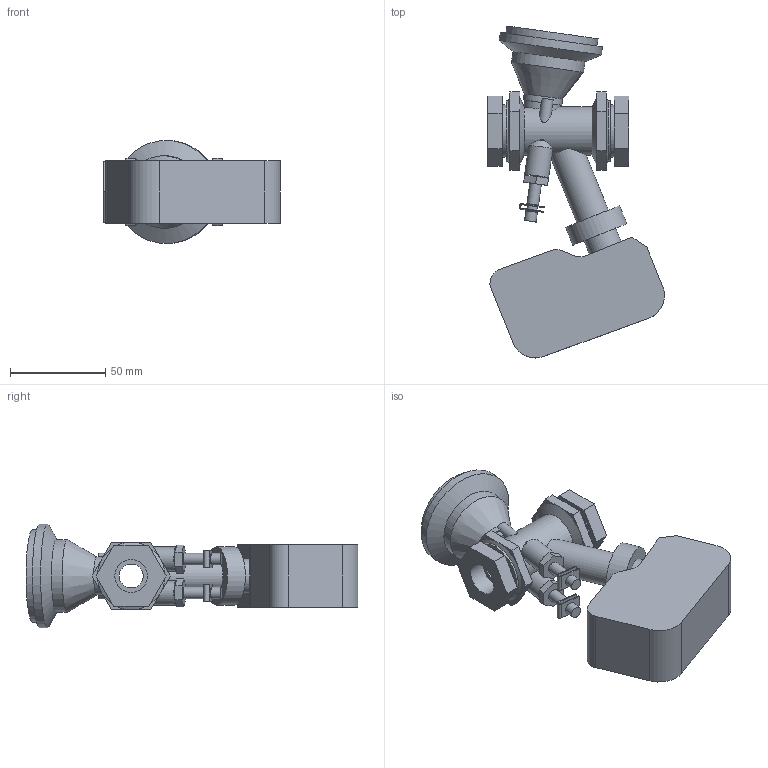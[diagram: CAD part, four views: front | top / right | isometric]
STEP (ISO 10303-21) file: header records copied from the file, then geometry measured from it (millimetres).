
FILE_DESCRIPTION(/* description */ ('VIC BALANCING AND CONTROL VALVE SERIES 7CP (FPT)-TA SLIDER 160','CAx-IF Rec.Pracs.---Representation and Presentation of Product Manufacturing Information (PMI)---4.0---2014-10-13'),/* implementation_level */ '2;1');
FILE_NAME(/* name */ 'C:\Users\Vjadhav\AppData\Roaming\Autodesk\ApplicationPlugins\Victaulic.Temp\A633\Victaulic_IPS_Valve Balancing Pressure Independent_TA Series 7CP (FPT)_Slider 160_0.375 (10).stp',/* time_stamp */ '2021-09-14T20:02:12+06:00',/* author */ ('Vjadhav'),/* organization */ ('Victaulic'),/* preprocessor_version */ 'ST-DEVELOPER v17.2',/* originating_system */ 'Autodesk Inventor 2019',/* authorisation */ '');
FILE_SCHEMA (('AP242_MANAGED_MODEL_BASED_3D_ENGINEERING_MIM_LF { 1 0 10303 442 1 1 4 }'));
Length unit declared in the file: inch
Products named in the file (2): 7CP_Slider 160-0.375; 7CP-0.375
Assembly tree (1 placements, depth 2):
  7CP_Slider 160-0.375
    7CP-0.375
Bounding box: 92.67 x 173.99 x 54.1 mm (x, y, z)
Volume: 229273.6 mm3; surface area: 45875 mm2
Topology: 1 solids, 1 shells, 174 faces, 432 edges, 288 vertices
Faces by surface type: plane 120, cylinder 46, cone 8
Full cylindrical faces by diameter (mm): 5.08 x6, 6.096 x6, 12.522 x2, 12.7 x2, 17.145 x3, 17.78 x2, 20.32 x1, 25.4 x1, 27.432 x2, 30.471 x1, 31.75 x2, 38.1 x1, 48.26 x1, 54.102 x1
Entity records: 5722 total; most frequent: CARTESIAN_POINT 1120, DIRECTION 944, ORIENTED_EDGE 864, EDGE_CURVE 432, AXIS2_PLACEMENT_3D 350, VERTEX_POINT 288, LINE 244, VECTOR 244
